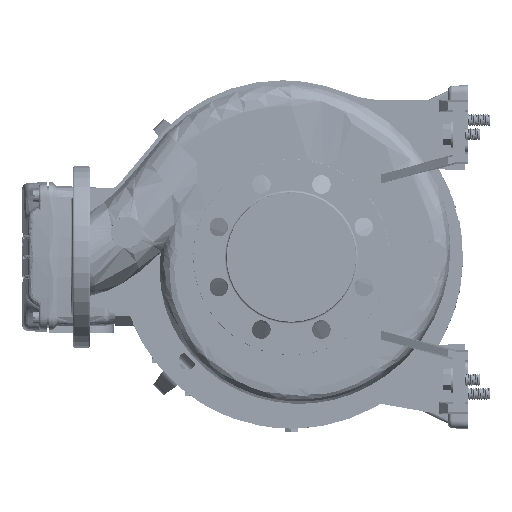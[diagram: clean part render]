
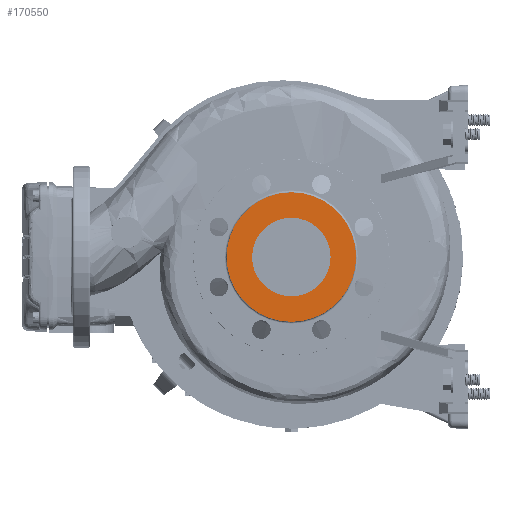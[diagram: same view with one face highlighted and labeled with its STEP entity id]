
A CAD part, left-side view. The second image highlights one B-rep face of the part: STEP entity #170550.
In plain terms, the highlighted planar face has unit normal (-1, 0, 0).
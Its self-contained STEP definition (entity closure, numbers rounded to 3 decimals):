
#794 = DIRECTION ( 'NONE',  ( -1., 0., 0. ) ) ;
#2252 = AXIS2_PLACEMENT_3D ( 'NONE', #137977, #794, #209895 ) ;
#5209 = EDGE_CURVE ( 'NONE', #108343, #165791, #97769, .T. ) ;
#12299 = CARTESIAN_POINT ( 'NONE',  ( -100., 0., 0. ) ) ;
#27067 = CARTESIAN_POINT ( 'NONE',  ( -100., 0., 0. ) ) ;
#37199 = CIRCLE ( 'NONE', #55453, 66. ) ;
#50178 = CARTESIAN_POINT ( 'NONE',  ( -100., -66., 0. ) ) ;
#55453 = AXIS2_PLACEMENT_3D ( 'NONE', #27067, #147114, #217894 ) ;
#63770 = PLANE ( 'NONE',  #129972 ) ;
#72195 = AXIS2_PLACEMENT_3D ( 'NONE', #189230, #121827, #156116 ) ;
#75920 = ORIENTED_EDGE ( 'NONE', *, *, #5209, .F. ) ;
#97769 = CIRCLE ( 'NONE', #72195, 40. ) ;
#99583 = ORIENTED_EDGE ( 'NONE', *, *, #104440, .F. ) ;
#104440 = EDGE_CURVE ( 'NONE', #135530, #117392, #37199, .T. ) ;
#104571 = CIRCLE ( 'NONE', #2252, 40. ) ;
#108343 = VERTEX_POINT ( 'NONE', #198790 ) ;
#117392 = VERTEX_POINT ( 'NONE', #144235 ) ;
#121827 = DIRECTION ( 'NONE',  ( -1., 0., 0. ) ) ;
#129972 = AXIS2_PLACEMENT_3D ( 'NONE', #12299, #220258, #185976 ) ;
#135299 = ORIENTED_EDGE ( 'NONE', *, *, #148684, .F. ) ;
#135530 = VERTEX_POINT ( 'NONE', #50178 ) ;
#137770 = DIRECTION ( 'NONE',  ( 1., 0., 0. ) ) ;
#137977 = CARTESIAN_POINT ( 'NONE',  ( -100., 0., 0. ) ) ;
#144235 = CARTESIAN_POINT ( 'NONE',  ( -100., 66., 0. ) ) ;
#147114 = DIRECTION ( 'NONE',  ( 1., 0., 0. ) ) ;
#148684 = EDGE_CURVE ( 'NONE', #117392, #135530, #150525, .T. ) ;
#150525 = CIRCLE ( 'NONE', #179720, 66. ) ;
#156116 = DIRECTION ( 'NONE',  ( 0., -1., 0. ) ) ;
#158291 = DIRECTION ( 'NONE',  ( 0., 1., 0. ) ) ;
#159075 = ORIENTED_EDGE ( 'NONE', *, *, #222197, .F. ) ;
#165791 = VERTEX_POINT ( 'NONE', #191902 ) ;
#169976 = FACE_BOUND ( 'NONE', #192764, .T. ) ;
#170550 = ADVANCED_FACE ( 'NONE', ( #169976, #218029 ), #63770, .T. ) ;
#179720 = AXIS2_PLACEMENT_3D ( 'NONE', #190302, #137770, #158291 ) ;
#185976 = DIRECTION ( 'NONE',  ( 0., -1., 0. ) ) ;
#186028 = EDGE_LOOP ( 'NONE', ( #135299, #99583 ) ) ;
#189230 = CARTESIAN_POINT ( 'NONE',  ( -100., 0., 0. ) ) ;
#190302 = CARTESIAN_POINT ( 'NONE',  ( -100., 0., 0. ) ) ;
#191902 = CARTESIAN_POINT ( 'NONE',  ( -100., -40., 0. ) ) ;
#192764 = EDGE_LOOP ( 'NONE', ( #159075, #75920 ) ) ;
#198790 = CARTESIAN_POINT ( 'NONE',  ( -100., 40., 0. ) ) ;
#209895 = DIRECTION ( 'NONE',  ( 0., -1., 0. ) ) ;
#217894 = DIRECTION ( 'NONE',  ( 0., 1., 0. ) ) ;
#218029 = FACE_OUTER_BOUND ( 'NONE', #186028, .T. ) ;
#220258 = DIRECTION ( 'NONE',  ( -1., 0., 0. ) ) ;
#222197 = EDGE_CURVE ( 'NONE', #165791, #108343, #104571, .T. ) ;
